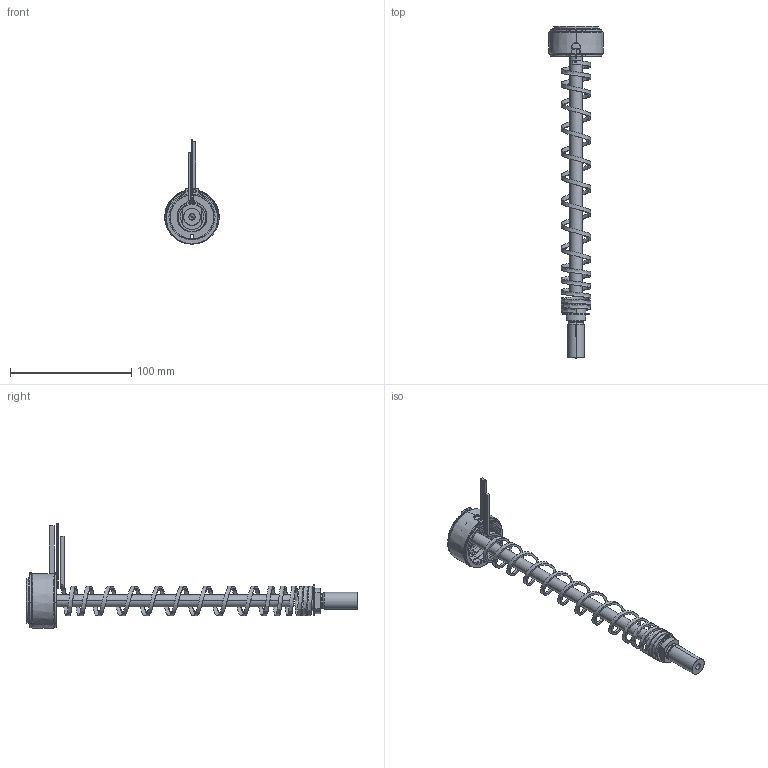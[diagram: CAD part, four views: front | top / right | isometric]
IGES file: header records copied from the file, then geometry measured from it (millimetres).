
Start section: SolidWorks IGES file using analytic representation for surfaces
Global section: file name: C:\Documents and Settings\ws-20\Desktop\TEM\UGBE4505-M-A-P-3 [Ød-2.0 P-25 ØC-10].IGS; native system: SolidWorks 2012; preprocessor: SolidWorks 2012; author: ws-20; date: 120412.155042; units: millimetre
Bounding box: 45 x 274 x 86.15 mm (x, y, z)
Surface area: 31963.5 mm2 (no closed solid volume)
Topology: 0 solids, 0 shells, 129 faces, 2450 edges, 2450 vertices
Faces by surface type: revolution 80, bspline 49
